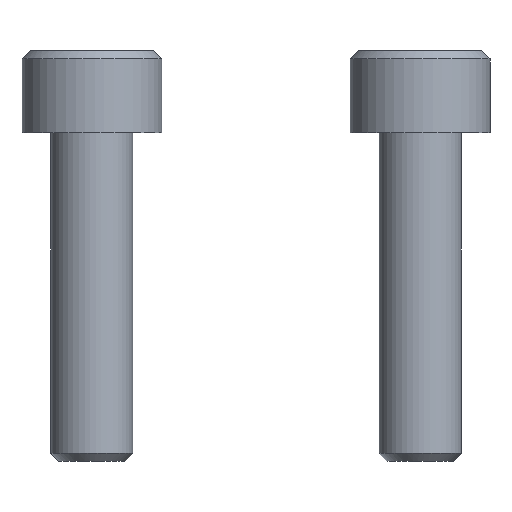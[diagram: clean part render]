
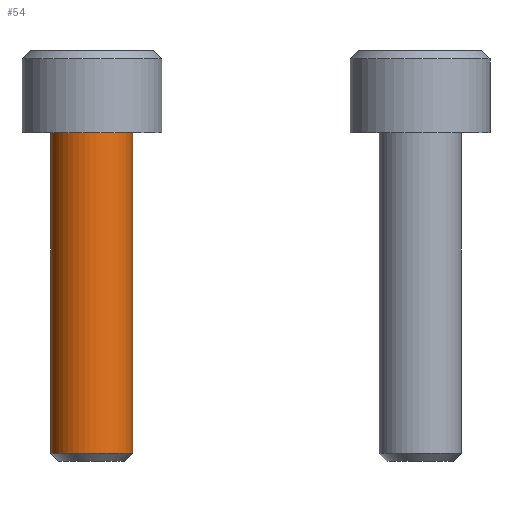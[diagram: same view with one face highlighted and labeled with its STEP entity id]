
A CAD part, top view. The second image highlights one B-rep face of the part: STEP entity #54.
In plain terms, the highlighted free-form (B-spline) face has degree [2, 1] with [9, 2] control points.
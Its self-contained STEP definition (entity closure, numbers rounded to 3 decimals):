
#54=ADVANCED_FACE('',(#79),#760,.T.);
#79=FACE_OUTER_BOUND('',#104,.T.);
#104=EDGE_LOOP('',(#195,#196,#197,#198));
#195=ORIENTED_EDGE('',*,*,#532,.F.);
#196=ORIENTED_EDGE('',*,*,#575,.T.);
#197=ORIENTED_EDGE('',*,*,#534,.F.);
#198=ORIENTED_EDGE('',*,*,#574,.F.);
#244=(
BOUNDED_CURVE()
B_SPLINE_CURVE(2,(#1381,#1382,#1383,#1384,#1385),.UNSPECIFIED.,.F.,.F.)
B_SPLINE_CURVE_WITH_KNOTS((3,2,3),(-7.854,-3.927,0.),
 .UNSPECIFIED.)
CURVE()
GEOMETRIC_REPRESENTATION_ITEM()
RATIONAL_B_SPLINE_CURVE((1.,0.707,1.,0.707,1.))
REPRESENTATION_ITEM('')
);
#245=(
BOUNDED_CURVE()
B_SPLINE_CURVE(2,(#1394,#1395,#1396,#1397,#1398),.UNSPECIFIED.,.F.,.F.)
B_SPLINE_CURVE_WITH_KNOTS((3,2,3),(-7.854,-3.927,0.),
 .UNSPECIFIED.)
CURVE()
GEOMETRIC_REPRESENTATION_ITEM()
RATIONAL_B_SPLINE_CURVE((1.,0.707,1.,0.707,1.))
REPRESENTATION_ITEM('')
);
#249=(
BOUNDED_CURVE()
B_SPLINE_CURVE(2,(#1420,#1421,#1422,#1423,#1424),.UNSPECIFIED.,.F.,.F.)
B_SPLINE_CURVE_WITH_KNOTS((3,2,3),(-7.854,-3.927,0.),
 .UNSPECIFIED.)
CURVE()
GEOMETRIC_REPRESENTATION_ITEM()
RATIONAL_B_SPLINE_CURVE((1.,0.707,1.,0.707,1.))
REPRESENTATION_ITEM('')
);
#263=PCURVE('',#755,#371);
#265=PCURVE('',#755,#373);
#336=PCURVE('',#759,#444);
#339=PCURVE('',#760,#447);
#340=PCURVE('',#760,#448);
#341=PCURVE('',#760,#449);
#342=PCURVE('',#760,#450);
#345=PCURVE('',#751,#453);
#371=DEFINITIONAL_REPRESENTATION('',(#592),#1481);
#373=DEFINITIONAL_REPRESENTATION('',(#595),#1481);
#444=DEFINITIONAL_REPRESENTATION('',(#684),#1481);
#447=DEFINITIONAL_REPRESENTATION('',(#687),#1481);
#448=DEFINITIONAL_REPRESENTATION('',(#688),#1481);
#449=DEFINITIONAL_REPRESENTATION('',(#689),#1481);
#450=DEFINITIONAL_REPRESENTATION('',(#690),#1481);
#453=DEFINITIONAL_REPRESENTATION('',(#249),#1481);
#478=SURFACE_CURVE('',#591,(#263,#339),.PCURVE_S1.);
#480=SURFACE_CURVE('',#594,(#265,#341),.PCURVE_S1.);
#520=SURFACE_CURVE('',#244,(#336,#342),.PCURVE_S1.);
#521=SURFACE_CURVE('',#245,(#340,#345),.PCURVE_S1.);
#532=EDGE_CURVE('',#711,#712,#478,.T.);
#534=EDGE_CURVE('',#713,#714,#480,.T.);
#574=EDGE_CURVE('',#712,#713,#520,.T.);
#575=EDGE_CURVE('',#711,#714,#521,.T.);
#591=B_SPLINE_CURVE_WITH_KNOTS('',1,(#1117,#1118),.UNSPECIFIED.,.F.,.F.,
(2,2),(-19.51,0.),.UNSPECIFIED.);
#592=B_SPLINE_CURVE_WITH_KNOTS('',1,(#1119,#1120),.UNSPECIFIED.,.F.,.F.,
(2,2),(-19.51,0.),.UNSPECIFIED.);
#594=B_SPLINE_CURVE_WITH_KNOTS('',1,(#1128,#1129),.UNSPECIFIED.,.F.,.F.,
(2,2),(-19.51,0.),.UNSPECIFIED.);
#595=B_SPLINE_CURVE_WITH_KNOTS('',1,(#1130,#1131),.UNSPECIFIED.,.F.,.F.,
(2,2),(-19.51,0.),.UNSPECIFIED.);
#684=B_SPLINE_CURVE_WITH_KNOTS('',1,(#1386,#1387),.UNSPECIFIED.,.F.,.F.,
(2,2),(-7.854,0.),.UNSPECIFIED.);
#687=B_SPLINE_CURVE_WITH_KNOTS('',1,(#1392,#1393),.UNSPECIFIED.,.F.,.F.,
(2,2),(-19.51,0.),.UNSPECIFIED.);
#688=B_SPLINE_CURVE_WITH_KNOTS('',1,(#1399,#1400),.UNSPECIFIED.,.F.,.F.,
(2,2),(-7.854,0.),.UNSPECIFIED.);
#689=B_SPLINE_CURVE_WITH_KNOTS('',1,(#1401,#1402),.UNSPECIFIED.,.F.,.F.,
(2,2),(-19.51,0.),.UNSPECIFIED.);
#690=B_SPLINE_CURVE_WITH_KNOTS('',1,(#1403,#1404),.UNSPECIFIED.,.F.,.F.,
(2,2),(-7.854,0.),.UNSPECIFIED.);
#711=VERTEX_POINT('',#1051);
#712=VERTEX_POINT('',#1052);
#713=VERTEX_POINT('',#1053);
#714=VERTEX_POINT('',#1054);
#751=PLANE('',#818);
#755=(
BOUNDED_SURFACE()
B_SPLINE_SURFACE(2,1,((#886,#887),(#888,#889),(#890,#891),(#892,#893),(#894,
#895),(#896,#897),(#898,#899),(#900,#901),(#902,#903)),.UNSPECIFIED.,.T.,
 .F.,.F.)
B_SPLINE_SURFACE_WITH_KNOTS((3,2,2,2,3),(2,2),(0.,1.571,3.142,
4.712,6.283),(0.,23.414),.UNSPECIFIED.)
GEOMETRIC_REPRESENTATION_ITEM()
RATIONAL_B_SPLINE_SURFACE(((1.,1.),(0.707,0.707),
(1.,1.),(0.707,0.707),(1.,1.),(0.707,
0.707),(1.,1.),(0.707,0.707),(1.,1.)))
REPRESENTATION_ITEM('')
SURFACE()
);
#759=(
BOUNDED_SURFACE()
B_SPLINE_SURFACE(2,1,((#971,#972),(#973,#974),(#975,#976),(#977,#978),(#979,
#980),(#981,#982),(#983,#984),(#985,#986),(#987,#988)),.UNSPECIFIED.,.T.,
 .F.,.F.)
B_SPLINE_SURFACE_WITH_KNOTS((3,2,2,2,3),(2,2),(0.,1.571,3.142,
4.712,6.283),(0.,3.891),.UNSPECIFIED.)
GEOMETRIC_REPRESENTATION_ITEM()
RATIONAL_B_SPLINE_SURFACE(((1.,1.),(0.707,0.707),
(1.,1.),(0.707,0.707),(1.,1.),(0.707,
0.707),(1.,1.),(0.707,0.707),(1.,1.)))
REPRESENTATION_ITEM('')
SURFACE()
);
#760=(
BOUNDED_SURFACE()
B_SPLINE_SURFACE(2,1,((#989,#990),(#991,#992),(#993,#994),(#995,#996),(#997,
#998),(#999,#1000),(#1001,#1002),(#1003,#1004),(#1005,#1006)),
 .UNSPECIFIED.,.T.,.F.,.F.)
B_SPLINE_SURFACE_WITH_KNOTS((3,2,2,2,3),(2,2),(0.,1.571,3.142,
4.712,6.283),(0.,23.414),.UNSPECIFIED.)
GEOMETRIC_REPRESENTATION_ITEM()
RATIONAL_B_SPLINE_SURFACE(((1.,1.),(0.707,0.707),
(1.,1.),(0.707,0.707),(1.,1.),(0.707,
0.707),(1.,1.),(0.707,0.707),(1.,1.)))
REPRESENTATION_ITEM('')
SURFACE()
);
#818=AXIS2_PLACEMENT_3D('',#1007,#840,$);
#840=DIRECTION('',(1.,0.,0.));
#886=CARTESIAN_POINT('',(-1.952,0.,2.5));
#887=CARTESIAN_POINT('',(21.462,0.,2.5));
#888=CARTESIAN_POINT('',(-1.952,-2.5,2.5));
#889=CARTESIAN_POINT('',(21.462,-2.5,2.5));
#890=CARTESIAN_POINT('',(-1.952,-2.5,0.));
#891=CARTESIAN_POINT('',(21.462,-2.5,0.));
#892=CARTESIAN_POINT('',(-1.952,-2.5,-2.5));
#893=CARTESIAN_POINT('',(21.462,-2.5,-2.5));
#894=CARTESIAN_POINT('',(-1.952,0.,-2.5));
#895=CARTESIAN_POINT('',(21.462,0.,-2.5));
#896=CARTESIAN_POINT('',(-1.952,2.5,-2.5));
#897=CARTESIAN_POINT('',(21.462,2.5,-2.5));
#898=CARTESIAN_POINT('',(-1.952,2.5,0.));
#899=CARTESIAN_POINT('',(21.462,2.5,0.));
#900=CARTESIAN_POINT('',(-1.952,2.5,2.5));
#901=CARTESIAN_POINT('',(21.462,2.5,2.5));
#902=CARTESIAN_POINT('',(-1.952,0.,2.5));
#903=CARTESIAN_POINT('',(21.462,0.,2.5));
#971=CARTESIAN_POINT('',(22.01,0.,0.));
#972=CARTESIAN_POINT('',(19.258,0.,-2.751));
#973=CARTESIAN_POINT('',(22.01,0.,0.));
#974=CARTESIAN_POINT('',(19.258,-2.751,-2.751));
#975=CARTESIAN_POINT('',(22.01,0.,0.));
#976=CARTESIAN_POINT('',(19.258,-2.751,0.));
#977=CARTESIAN_POINT('',(22.01,0.,0.));
#978=CARTESIAN_POINT('',(19.258,-2.751,2.751));
#979=CARTESIAN_POINT('',(22.01,0.,0.));
#980=CARTESIAN_POINT('',(19.258,0.,2.751));
#981=CARTESIAN_POINT('',(22.01,0.,0.));
#982=CARTESIAN_POINT('',(19.258,2.751,2.751));
#983=CARTESIAN_POINT('',(22.01,0.,0.));
#984=CARTESIAN_POINT('',(19.258,2.751,0.));
#985=CARTESIAN_POINT('',(22.01,0.,0.));
#986=CARTESIAN_POINT('',(19.258,2.751,-2.751));
#987=CARTESIAN_POINT('',(22.01,0.,0.));
#988=CARTESIAN_POINT('',(19.258,0.,-2.751));
#989=CARTESIAN_POINT('',(-1.952,0.,-2.5));
#990=CARTESIAN_POINT('',(21.462,0.,-2.5));
#991=CARTESIAN_POINT('',(-1.952,2.5,-2.5));
#992=CARTESIAN_POINT('',(21.462,2.5,-2.5));
#993=CARTESIAN_POINT('',(-1.952,2.5,0.));
#994=CARTESIAN_POINT('',(21.462,2.5,0.));
#995=CARTESIAN_POINT('',(-1.952,2.5,2.5));
#996=CARTESIAN_POINT('',(21.462,2.5,2.5));
#997=CARTESIAN_POINT('',(-1.952,0.,2.5));
#998=CARTESIAN_POINT('',(21.462,0.,2.5));
#999=CARTESIAN_POINT('',(-1.952,-2.5,2.5));
#1000=CARTESIAN_POINT('',(21.462,-2.5,2.5));
#1001=CARTESIAN_POINT('',(-1.952,-2.5,0.));
#1002=CARTESIAN_POINT('',(21.462,-2.5,0.));
#1003=CARTESIAN_POINT('',(-1.952,-2.5,-2.5));
#1004=CARTESIAN_POINT('',(21.462,-2.5,-2.5));
#1005=CARTESIAN_POINT('',(-1.952,0.,-2.5));
#1006=CARTESIAN_POINT('',(21.462,0.,-2.5));
#1007=CARTESIAN_POINT('',(0.,5.101,5.101));
#1051=CARTESIAN_POINT('',(0.,2.5,0.));
#1052=CARTESIAN_POINT('',(19.51,2.5,0.));
#1053=CARTESIAN_POINT('',(19.51,-2.5,0.));
#1054=CARTESIAN_POINT('',(0.,-2.5,0.));
#1117=CARTESIAN_POINT('',(0.,2.5,0.));
#1118=CARTESIAN_POINT('',(19.51,2.5,0.));
#1119=CARTESIAN_POINT('',(4.712,1.952));
#1120=CARTESIAN_POINT('',(4.712,21.462));
#1128=CARTESIAN_POINT('',(19.51,-2.5,0.));
#1129=CARTESIAN_POINT('',(0.,-2.5,0.));
#1130=CARTESIAN_POINT('',(1.571,21.462));
#1131=CARTESIAN_POINT('',(1.571,1.952));
#1381=CARTESIAN_POINT('',(19.51,2.5,0.));
#1382=CARTESIAN_POINT('',(19.51,2.5,2.5));
#1383=CARTESIAN_POINT('',(19.51,0.,2.5));
#1384=CARTESIAN_POINT('',(19.51,-2.5,2.5));
#1385=CARTESIAN_POINT('',(19.51,-2.5,0.));
#1386=CARTESIAN_POINT('',(4.712,3.536));
#1387=CARTESIAN_POINT('',(1.571,3.536));
#1392=CARTESIAN_POINT('',(1.571,1.952));
#1393=CARTESIAN_POINT('',(1.571,21.462));
#1394=CARTESIAN_POINT('',(0.,2.5,0.));
#1395=CARTESIAN_POINT('',(0.,2.5,2.5));
#1396=CARTESIAN_POINT('',(0.,0.,2.5));
#1397=CARTESIAN_POINT('',(0.,-2.5,2.5));
#1398=CARTESIAN_POINT('',(0.,-2.5,0.));
#1399=CARTESIAN_POINT('',(1.571,1.952));
#1400=CARTESIAN_POINT('',(4.712,1.952));
#1401=CARTESIAN_POINT('',(4.712,21.462));
#1402=CARTESIAN_POINT('',(4.712,1.952));
#1403=CARTESIAN_POINT('',(1.571,21.462));
#1404=CARTESIAN_POINT('',(4.712,21.462));
#1420=CARTESIAN_POINT('',(0.875,0.));
#1421=CARTESIAN_POINT('',(0.875,-2.5));
#1422=CARTESIAN_POINT('',(3.375,-2.5));
#1423=CARTESIAN_POINT('',(5.875,-2.5));
#1424=CARTESIAN_POINT('',(5.875,0.));
#1481=(
GEOMETRIC_REPRESENTATION_CONTEXT(2)
PARAMETRIC_REPRESENTATION_CONTEXT()
REPRESENTATION_CONTEXT('pspace','')
);
